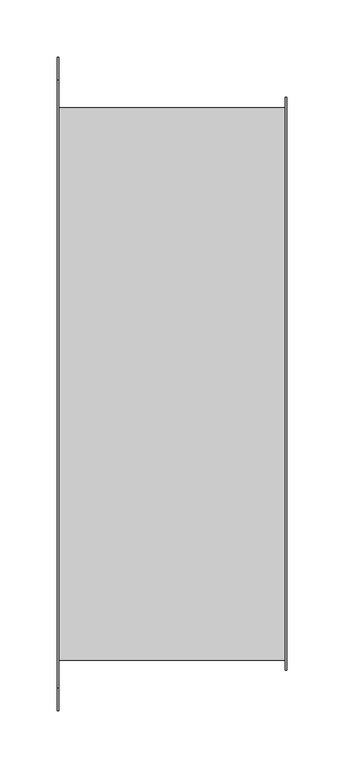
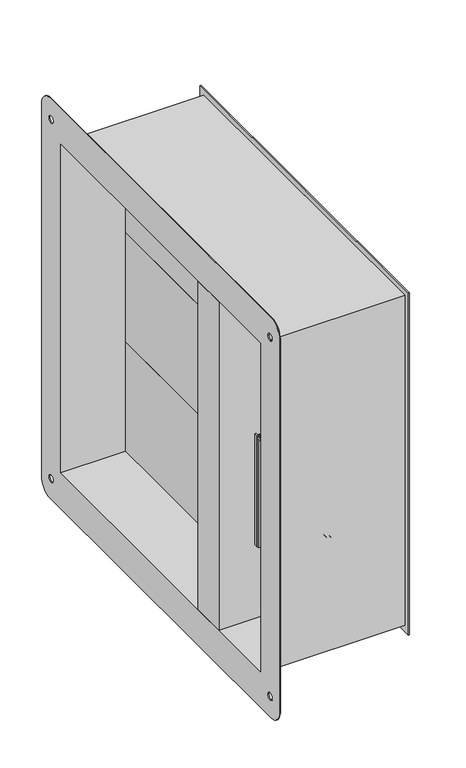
"""IFC4 building model written with IfcOpenShell, lengths in millimetres: damper geometry, СВ_КлапанПротивопожарныйЛифтовой_КДМ-2М-3-ЛС_НЗ_СтеновойПрямоугольный_СВОК : КДМ-3_Привод ЭМ."""

from ifc_helpers import new_model, si_unit, frame, origin, place, context, project, spatial, polyline, circle_curve, outline, extrude, source, transform, mapped, element, save
from ifc_brep_helpers import plane_surface, cylinder_surface, revolved_surface, advanced_brep


def damper_7b435ec8(model_context):
    return source(origin(), model_context, "Body", "SolidModel", [
        extrude(outline(polyline([(10.0, -90.0), (-10.0, -90.0), (-10.0, 240.0), (10.0, 240.0), (10.0, -90.0)])), frame((0.0, 0.0, 80.0), z_axis=(0.0, 0.0, 1.0), x_axis=(1.0, 0.0, 0.0)), (0.0, 0.0, 1.0), 160.0),
        extrude(outline(polyline([(10.0, -90.0), (-10.0, -90.0), (-10.0, 240.0), (10.0, 240.0), (10.0, -90.0)])), frame((0.0, 0.0, -80.0), z_axis=(0.0, 0.0, 1.0), x_axis=(1.0, 0.0, 0.0)), (0.0, 0.0, 1.0), 160.0),
        extrude(outline(polyline([(10.0, -90.0), (-10.0, -90.0), (-10.0, 240.0), (10.0, 240.0), (10.0, -90.0)])), frame((0.0, 0.0, -240.0), z_axis=(0.0, 0.0, 1.0), x_axis=(1.0, 0.0, 0.0)), (0.0, 0.0, 1.0), 160.0),
        extrude(outline(polyline([(48.8298911, -140.0), (50.0298911, -140.0), (50.0298911, -145.0), (-50.0, -145.0), (-50.0, -140.0), (-48.8, -140.0), (-48.8, -143.8), (48.8298911, -143.8), (48.8298911, -140.0)])), frame((0.0, 0.0, -132.5), z_axis=(0.0, 0.0, 1.0), x_axis=(1.0, 0.0, 0.0)), (0.0, 0.0, 1.0), 162.5),
        advanced_brep(
        [(0.0, -219.0, -115.8717586), (0.0, -219.0, -90.1282414), (0.0, -219.0, -103.0), (0.0, -211.122975, -115.8717586), (0.0, -211.122975, -90.1282414), (0.0, -211.122975, -112.0972194), (0.0, -211.122975, -93.9027806), (0.0, -197.0, -112.0972194), (0.0, -197.0, -93.9027806), (0.0, -197.0, -103.0)],
        [
            (0, 1, circle_curve(frame((0.0, -219.0, -103.0), z_axis=(0.0, -1.0, 0.0), x_axis=(0.0, 0.0, 1.0)), 12.8717586)),
            (1, 2),
            (2, 0),
            (1, 0, circle_curve(frame((0.0, -219.0, -103.0), z_axis=(0.0, -1.0, 0.0), x_axis=(0.0, 0.0, 1.0)), 12.8717586)),
            (3, 4, circle_curve(frame((0.0, -211.122975, -103.0), z_axis=(0.0, -1.0, 0.0), x_axis=(0.0, 0.0, 1.0)), 12.8717586)),
            (4, 1),
            (0, 3),
            (4, 3, circle_curve(frame((0.0, -211.122975, -103.0), z_axis=(0.0, -1.0, 0.0), x_axis=(0.0, 0.0, 1.0)), 12.8717586)),
            (5, 6, circle_curve(frame((0.0, -211.122975, -103.0), z_axis=(0.0, -1.0, 0.0), x_axis=(0.0, 0.0, 1.0)), 9.0972194)),
            (6, 4),
            (3, 5),
            (6, 5, circle_curve(frame((0.0, -211.122975, -103.0), z_axis=(0.0, -1.0, 0.0), x_axis=(0.0, 0.0, 1.0)), 9.0972194)),
            (7, 8, circle_curve(frame((0.0, -197.0, -103.0), z_axis=(0.0, -1.0, 0.0), x_axis=(0.0, 0.0, 1.0)), 9.0972194)),
            (8, 6),
            (5, 7),
            (8, 7, circle_curve(frame((0.0, -197.0, -103.0), z_axis=(0.0, -1.0, 0.0), x_axis=(0.0, 0.0, 1.0)), 9.0972194)),
            (9, 8),
            (7, 9),
        ],
        [
            plane_surface(frame((0.0, -219.0, -103.0), z_axis=(0.0, -1.0, 0.0), x_axis=(0.0, 0.0, 1.0))),
            cylinder_surface(frame((0.0, -197.0, -103.0), z_axis=(0.0, 1.0, 0.0), x_axis=(0.0, 0.0, 1.0)), 12.8717586),
            plane_surface(frame((0.0, -211.122975, -103.0), z_axis=(0.0, 1.0, 0.0), x_axis=(0.0, 0.0, 1.0))),
            cylinder_surface(frame((0.0, -197.0, -103.0), z_axis=(0.0, 1.0, 0.0), x_axis=(0.0, 0.0, 1.0)), 9.0972194),
            plane_surface(frame((0.0, -197.0, -103.0), z_axis=(0.0, 1.0, 0.0), x_axis=(0.0, 0.0, 1.0))),
        ],
        [
            (0, [[1, 2, 3]]),
            (0, [[4, -3, -2]]),
            (1, [[5, 6, -1, 7]]),
            (1, [[8, -7, -4, -6]]),
            (2, [[9, 10, -5, 11]]),
            (2, [[12, -11, -8, -10]]),
            (3, [[13, 14, -9, 15]]),
            (3, [[16, -15, -12, -14]]),
            (4, [[17, -13, 18]]),
            (4, [[-18, -16, -17]]),
        ],
    ),
        advanced_brep(
        [(30.37371, -190.4632523, -120.900028), (-29.62629, -190.4632523, -120.900028), (-29.62629, -151.0, -120.900028), (-43.1888336, -151.0, -120.900028), (-43.1888336, -148.0, -120.900028), (-26.62629, -148.0, -120.900028), (-26.62629, -187.4632523, -120.900028), (0.37371, -187.4632523, -120.900028), (27.37371, -187.4632523, -120.900028), (27.37371, -148.0, -120.900028), (43.9362537, -148.0, -120.900028), (43.9362537, -151.0, -120.900028), (30.37371, -151.0, -120.900028), (30.37371, -190.4632523, -85.2906263), (30.37371, -151.0, -85.2906263), (43.9362537, -151.0, -85.2906263), (43.9362537, -148.0, -85.2906263), (27.37371, -148.0, -85.2906263), (27.37371, -187.4632523, -85.2906263), (0.37371, -187.4632523, -85.2906263), (-26.62629, -187.4632523, -85.2906263), (-26.62629, -148.0, -85.2906263), (-43.1888336, -148.0, -85.2906263), (-43.1888336, -151.0, -85.2906263), (-29.62629, -151.0, -85.2906263), (-29.62629, -190.4632523, -85.2906263), (-12.4468236, -190.4632523, -85.2906263), (0.37371, -190.4632523, -85.2906263), (12.4468236, -190.4632523, -85.2906263), (0.37371, -187.4632523, -87.0153496), (0.0, -187.4632523, -87.0109817), (0.0, -187.4632523, -118.9890183), (0.37371, -187.4632523, -118.9846504), (12.4468236, -197.0, -103.0), (12.4468236, -197.0, -15.654922), (-8.3218794, -197.0, 18.1864324), (-46.7904973, -197.0, 0.5836838), (-46.7904973, -197.0, -7.3717785), (-30.2857987, -197.0, -7.3717785), (-7.6533426, -197.0, -30.2158745), (-7.6533426, -197.0, -53.0), (-12.4468236, -197.0, -53.0), (-12.4468236, -197.0, -103.0), (8.4852814, -197.0, 0.0), (5.9954463, -197.0, -2.4898351), (5.9954463, -197.0, -5.9954463), (2.4898351, -197.0, -5.9954463), (0.0, -197.0, -8.4852814), (-2.4898351, -197.0, -5.9954463), (-5.9954463, -197.0, -5.9954463), (-5.9954463, -197.0, -2.4898351), (-8.4852814, -197.0, 0.0), (-5.9954463, -197.0, 2.4898351), (-5.9954463, -197.0, 5.9954463), (-2.4898351, -197.0, 5.9954463), (0.0, -197.0, 8.4852814), (2.4898351, -197.0, 5.9954463), (5.9954463, -197.0, 5.9954463), (5.9954463, -197.0, 2.4898351), (-12.4468236, -190.4632523, -53.0), (-7.6533426, -190.4632523, -53.0), (-7.6533426, -190.4632523, -30.2158745), (-23.3544986, -190.4632523, -20.6431616), (12.4468236, -190.4632523, -20.6431616), (-12.4468236, -190.4632523, -103.0), (12.4468236, -190.4632523, -103.0), (12.4468236, -190.4632523, -15.654922), (-8.3218794, -190.4632523, 18.1864324), (-46.7904973, -190.4632523, 0.5836838), (-46.7904973, -190.4632523, -7.3717785), (-30.2857987, -190.4632523, -7.3717785), (0.0, -185.0, 15.9890183), (0.0, -185.0, -15.9890183), (5.9954463, -185.0, -2.4898351), (8.4852814, -185.0, 0.0), (5.9954463, -185.0, 2.4898351), (5.9954463, -185.0, 5.9954463), (2.4898351, -185.0, 5.9954463), (0.0, -185.0, 8.4852814), (-2.4898351, -185.0, 5.9954463), (-5.9954463, -185.0, 5.9954463), (-5.9954463, -185.0, 2.4898351), (-8.4852814, -185.0, 0.0), (-5.9954463, -185.0, -2.4898351), (-5.9954463, -185.0, -5.9954463), (-2.4898351, -185.0, -5.9954463), (0.0, -185.0, -8.4852814), (2.4898351, -185.0, -5.9954463), (5.9954463, -185.0, -5.9954463), (0.0, -185.0, -87.0109817), (0.0, -185.0, -118.9890183), (0.0, -187.4632523, -15.9890183), (0.0, -187.4632523, 15.9890183), (-50.0, -145.0, 25.5), (-50.0, -145.0, -132.5), (-50.0, -148.0, -132.5), (-50.0, -148.0, 25.5), (-50.0, -149.5, 27.0), (-50.0, -185.9337407, 27.0), (-50.0, -187.4632523, 25.4704884), (-50.0, -187.4632523, -20.6431616), (-50.0, -190.4632523, -20.6431616), (-50.0, -190.4632523, 25.4704884), (-50.0, -185.9337407, 30.0), (-50.0, -149.5, 30.0), (50.0, -145.0, 25.5), (50.0, -149.5, 30.0), (50.0, -185.9337407, 30.0), (50.0, -190.4632523, 25.4704884), (50.0, -190.4632523, -20.6431616), (50.0, -187.4632523, -20.6431616), (50.0, -187.4632523, 25.4704884), (50.0, -185.9337407, 27.0), (50.0, -149.5, 27.0), (50.0, -148.0, 25.5), (50.0, -148.0, -132.5), (50.0, -145.0, -132.5), (5.9954463, -145.0, -2.4898351), (8.4852814, -145.0, 0.0), (5.9954463, -145.0, 2.4898351), (5.9954463, -145.0, 5.9954463), (2.4898351, -145.0, 5.9954463), (0.0, -145.0, 8.4852814), (-2.4898351, -145.0, 5.9954463), (-5.9954463, -145.0, 5.9954463), (-5.9954463, -145.0, 2.4898351), (-8.4852814, -145.0, 0.0), (-5.9954463, -145.0, -2.4898351), (-5.9954463, -145.0, -5.9954463), (-2.4898351, -145.0, -5.9954463), (0.0, -145.0, -8.4852814), (2.4898351, -145.0, -5.9954463), (5.9954463, -145.0, -5.9954463), (8.4852814, -148.0, 0.0), (5.9954463, -148.0, -2.4898351), (5.9954463, -148.0, -5.9954463), (2.4898351, -148.0, -5.9954463), (0.0, -148.0, -8.4852814), (-2.4898351, -148.0, -5.9954463), (-5.9954463, -148.0, -5.9954463), (-5.9954463, -148.0, -2.4898351), (-8.4852814, -148.0, 0.0), (-5.9954463, -148.0, 2.4898351), (-5.9954463, -148.0, 5.9954463), (-2.4898351, -148.0, 5.9954463), (0.0, -148.0, 8.4852814), (2.4898351, -148.0, 5.9954463), (5.9954463, -148.0, 5.9954463), (5.9954463, -148.0, 2.4898351)],
        [
            (0, 1),
            (1, 2),
            (2, 3),
            (3, 4),
            (4, 5),
            (5, 6),
            (6, 7),
            (7, 8),
            (8, 9),
            (9, 10),
            (10, 11),
            (11, 12),
            (12, 0),
            (13, 14),
            (14, 15),
            (15, 16),
            (16, 17),
            (17, 18),
            (18, 19),
            (19, 20),
            (20, 21),
            (21, 22),
            (22, 23),
            (23, 24),
            (24, 25),
            (25, 26),
            (26, 27),
            (27, 28),
            (28, 13),
            (1, 25),
            (24, 2),
            (23, 3),
            (22, 4),
            (5, 21),
            (20, 6),
            (19, 29),
            (29, 30, circle_curve(frame((0.0, -187.4632523, -103.0), z_axis=(0.0, -1.0, 0.0), x_axis=(0.0, 0.0, -1.0)), 15.9890183)),
            (30, 31, circle_curve(frame((0.0, -187.4632523, -103.0), z_axis=(0.0, -1.0, 0.0), x_axis=(0.0, 0.0, -1.0)), 15.9890183)),
            (31, 32, circle_curve(frame((0.0, -187.4632523, -103.0), z_axis=(0.0, -1.0, 0.0), x_axis=(0.0, 0.0, -1.0)), 15.9890183)),
            (32, 7),
            (32, 29, circle_curve(frame((0.0, -187.4632523, -103.0), z_axis=(0.0, -1.0, 0.0), x_axis=(0.0, 0.0, -1.0)), 15.9890183)),
            (18, 8),
            (17, 9),
            (10, 16),
            (15, 11),
            (14, 12),
            (13, 0),
            (33, 34),
            (34, 35, circle_curve(frame((0.0, -197.0, 0.0), z_axis=(0.0, -1.0, 0.0), x_axis=(0.0, 0.0, -1.0)), 20.0)),
            (35, 36),
            (36, 37),
            (37, 38),
            (38, 39, circle_curve(frame((0.0, -197.0, 0.0), z_axis=(0.0, -1.0, 0.0), x_axis=(0.0, 0.0, -1.0)), 31.1700613)),
            (39, 40),
            (40, 41),
            (41, 42),
            (42, 33, circle_curve(frame((0.0, -197.0, -103.0), z_axis=(0.0, -1.0, 0.0), x_axis=(0.0, 0.0, -1.0)), 12.4468236)),
            (43, 44),
            (44, 45),
            (45, 46),
            (46, 47),
            (47, 48),
            (48, 49),
            (49, 50),
            (50, 51),
            (51, 52),
            (52, 53),
            (53, 54),
            (54, 55),
            (55, 56),
            (56, 57),
            (57, 58),
            (58, 43),
            (59, 60),
            (60, 61),
            (61, 62, circle_curve(frame((0.0, -190.4632523, 0.0), z_axis=(0.0, 1.0, 0.0), x_axis=(0.0, 0.0, -1.0)), 31.1700613)),
            (62, 63),
            (63, 28),
            (26, 59),
            (42, 64),
            (64, 65, circle_curve(frame((0.0, -190.4632523, -103.0), z_axis=(0.0, -1.0, 0.0), x_axis=(0.0, 0.0, -1.0)), 12.4468236)),
            (65, 33),
            (34, 66),
            (66, 67, circle_curve(frame((0.0, -190.4632523, 0.0), z_axis=(0.0, -1.0, 0.0), x_axis=(0.0, 0.0, -1.0)), 20.0)),
            (67, 35),
            (65, 28),
            (63, 66),
            (36, 68),
            (68, 69),
            (69, 37),
            (69, 70),
            (70, 38),
            (70, 62, circle_curve(frame((0.0, -190.4632523, 0.0), z_axis=(0.0, -1.0, 0.0), x_axis=(0.0, 0.0, -1.0)), 31.1700613)),
            (61, 39),
            (60, 40),
            (59, 41),
            (26, 64),
            (71, 72, circle_curve(frame((0.0, -185.0, 0.0), z_axis=(0.0, 1.0, 0.0), x_axis=(0.0, 0.0, -1.0)), 15.9890183)),
            (72, 71, circle_curve(frame((0.0, -185.0, 0.0), z_axis=(0.0, 1.0, 0.0), x_axis=(0.0, 0.0, -1.0)), 15.9890183)),
            (73, 74),
            (74, 75),
            (75, 76),
            (76, 77),
            (77, 78),
            (78, 79),
            (79, 80),
            (80, 81),
            (81, 82),
            (82, 83),
            (83, 84),
            (84, 85),
            (85, 86),
            (86, 87),
            (87, 88),
            (88, 73),
            (89, 90, circle_curve(frame((0.0, -185.0, -103.0), z_axis=(0.0, 1.0, 0.0), x_axis=(0.0, 0.0, -1.0)), 15.9890183)),
            (90, 89, circle_curve(frame((0.0, -185.0, -103.0), z_axis=(0.0, 1.0, 0.0), x_axis=(0.0, 0.0, -1.0)), 15.9890183)),
            (72, 91),
            (91, 92, circle_curve(frame((0.0, -187.4632523, 0.0), z_axis=(0.0, 1.0, 0.0), x_axis=(0.0, 0.0, -1.0)), 15.9890183)),
            (92, 71),
            (92, 91, circle_curve(frame((0.0, -187.4632523, 0.0), z_axis=(0.0, 1.0, 0.0), x_axis=(0.0, 0.0, -1.0)), 15.9890183)),
            (90, 31),
            (30, 89),
            (93, 94),
            (94, 95),
            (95, 96),
            (96, 97, circle_curve(frame((-50.0, -149.5, 25.5), z_axis=(1.0, 0.0, 0.0), x_axis=(0.0, 0.0, -1.0)), 1.5)),
            (97, 98),
            (98, 99, circle_curve(frame((-50.0, -185.9337407, 25.4704884), z_axis=(1.0, 0.0, 0.0), x_axis=(0.0, 0.0, -1.0)), 1.5295116)),
            (99, 100),
            (100, 101),
            (101, 102),
            (102, 103, circle_curve(frame((-50.0, -185.9337407, 25.4704884), z_axis=(-1.0, 0.0, 0.0), x_axis=(0.0, 0.0, -1.0)), 4.5295116)),
            (103, 104),
            (104, 93, circle_curve(frame((-50.0, -149.5, 25.5), z_axis=(-1.0, 0.0, 0.0), x_axis=(0.0, 0.0, -1.0)), 4.5)),
            (105, 106, circle_curve(frame((50.0, -149.5, 25.5), z_axis=(1.0, 0.0, 0.0), x_axis=(0.0, 0.0, -1.0)), 4.5)),
            (106, 107),
            (107, 108, circle_curve(frame((50.0, -185.9337407, 25.4704884), z_axis=(1.0, 0.0, 0.0), x_axis=(0.0, 0.0, -1.0)), 4.5295116)),
            (108, 109),
            (109, 110),
            (110, 111),
            (111, 112, circle_curve(frame((50.0, -185.9337407, 25.4704884), z_axis=(-1.0, 0.0, 0.0), x_axis=(0.0, 0.0, -1.0)), 1.5295116)),
            (112, 113),
            (113, 114, circle_curve(frame((50.0, -149.5, 25.5), z_axis=(-1.0, 0.0, 0.0), x_axis=(0.0, 0.0, -1.0)), 1.5)),
            (114, 115),
            (115, 116),
            (116, 105),
            (93, 105),
            (116, 94),
            (117, 118),
            (118, 119),
            (119, 120),
            (120, 121),
            (121, 122),
            (122, 123),
            (123, 124),
            (124, 125),
            (125, 126),
            (126, 127),
            (127, 128),
            (128, 129),
            (129, 130),
            (130, 131),
            (131, 132),
            (132, 117),
            (115, 95),
            (114, 96),
            (133, 134),
            (134, 135),
            (135, 136),
            (136, 137),
            (137, 138),
            (138, 139),
            (139, 140),
            (140, 141),
            (141, 142),
            (142, 143),
            (143, 144),
            (144, 145),
            (145, 146),
            (146, 147),
            (147, 148),
            (148, 133),
            (113, 97),
            (112, 98),
            (111, 99),
            (110, 100),
            (109, 63),
            (62, 101),
            (68, 67),
            (108, 102),
            (107, 103),
            (106, 104),
            (73, 44),
            (43, 74),
            (117, 134),
            (133, 118),
            (58, 75),
            (148, 119),
            (57, 76),
            (147, 120),
            (56, 77),
            (146, 121),
            (55, 78),
            (145, 122),
            (54, 79),
            (144, 123),
            (53, 80),
            (143, 124),
            (52, 81),
            (142, 125),
            (51, 82),
            (141, 126),
            (50, 83),
            (140, 127),
            (49, 84),
            (139, 128),
            (48, 85),
            (138, 129),
            (47, 86),
            (137, 130),
            (46, 87),
            (136, 131),
            (45, 88),
            (135, 132),
        ],
        [
            plane_surface(frame((30.37371, -190.4632523, -120.900028), z_axis=(0.0, 0.0, -1.0), x_axis=(-1.0, 0.0, 0.0))),
            plane_surface(frame((30.37371, -190.4632523, -85.2906263), z_axis=(0.0, 0.0, 1.0), x_axis=(1.0, 0.0, 0.0))),
            plane_surface(frame((-29.62629, -190.4632523, -120.900028), z_axis=(-1.0, 0.0, 0.0), x_axis=(0.0, 0.0, 1.0))),
            plane_surface(frame((-29.62629, -151.0, -120.900028), z_axis=(0.0, -1.0, 0.0), x_axis=(0.0, 0.0, 1.0))),
            plane_surface(frame((-43.1888336, -151.0, -120.900028), z_axis=(-1.0, 0.0, 0.0), x_axis=(0.0, 0.0, 1.0))),
            plane_surface(frame((-26.62629, -148.0, -120.900028), z_axis=(1.0, 0.0, 0.0), x_axis=(0.0, 0.0, 1.0))),
            plane_surface(frame((-26.62629, -187.4632523, -120.900028), z_axis=(0.0, 1.0, 0.0), x_axis=(0.0, 0.0, 1.0))),
            plane_surface(frame((0.37371, -187.4632523, -120.900028), z_axis=(0.0, 1.0, 0.0), x_axis=(0.0, 0.0, 1.0))),
            plane_surface(frame((27.37371, -187.4632523, -120.900028), z_axis=(-1.0, 0.0, 0.0), x_axis=(0.0, 0.0, 1.0))),
            plane_surface(frame((43.9362537, -148.0, -120.900028), z_axis=(1.0, 0.0, 0.0), x_axis=(0.0, 0.0, 1.0))),
            plane_surface(frame((43.9362537, -151.0, -120.900028), z_axis=(0.0, -1.0, 0.0), x_axis=(0.0, 0.0, 1.0))),
            plane_surface(frame((30.37371, -151.0, -120.900028), z_axis=(1.0, 0.0, 0.0), x_axis=(0.0, 0.0, 1.0))),
            plane_surface(frame((12.4468236, -197.0, -103.0), z_axis=(0.0, -1.0, 0.0), x_axis=(0.0, 0.0, 1.0))),
            plane_surface(frame((12.4468236, -190.4632523, -103.0), z_axis=(0.0, 1.0, 0.0), x_axis=(0.0, 0.0, -1.0))),
            cylinder_surface(frame((0.0, -190.4632523, -103.0), z_axis=(0.0, -1.0, 0.0), x_axis=(0.0, 0.0, -1.0)), 12.4468236),
            cylinder_surface(frame((0.0, -190.4632523, 0.0), z_axis=(0.0, -1.0, 0.0), x_axis=(0.0, 0.0, -1.0)), 20.0),
            plane_surface(frame((12.4468236, -197.0, -103.0), z_axis=(1.0, 0.0, 0.0), x_axis=(0.0, 1.0, 0.0))),
            plane_surface(frame((-46.7904973, -197.0, 0.5836838), z_axis=(-1.0, 0.0, 0.0), x_axis=(0.0, 1.0, 0.0))),
            plane_surface(frame((-46.7904973, -197.0, -7.3717785), z_axis=(0.0, 0.0, -1.0), x_axis=(0.0, 1.0, 0.0))),
            cylinder_surface(frame((0.0, -190.4632523, 0.0), z_axis=(0.0, -1.0, 0.0), x_axis=(0.0, 0.0, -1.0)), 31.1700613),
            plane_surface(frame((-7.6533426, -197.0, -30.2158745), z_axis=(-1.0, 0.0, 0.0), x_axis=(0.0, 1.0, 0.0))),
            plane_surface(frame((-7.6533426, -197.0, -53.0), z_axis=(0.0, 0.0, 1.0), x_axis=(0.0, 1.0, 0.0))),
            plane_surface(frame((-12.4468236, -197.0, -53.0), z_axis=(-1.0, 0.0, 0.0), x_axis=(0.0, 1.0, 0.0))),
            plane_surface(frame((0.0, -190.4632523, -15.9890183), z_axis=(0.0, -1.0, 0.0), x_axis=(1.0, 0.0, 0.0))),
            plane_surface(frame((0.0, -185.0, -15.9890183), z_axis=(0.0, 1.0, 0.0), x_axis=(-1.0, 0.0, 0.0))),
            cylinder_surface(frame((0.0, -185.0, 0.0), z_axis=(0.0, -1.0, 0.0), x_axis=(0.0, 0.0, -1.0)), 15.9890183),
            cylinder_surface(frame((0.0, -140.0, -103.0), z_axis=(0.0, -1.0, 0.0), x_axis=(0.0, 0.0, -1.0)), 15.9890183),
            plane_surface(frame((-50.0, -145.0, -132.5), z_axis=(-1.0, 0.0, 0.0), x_axis=(0.0, 0.0, -1.0))),
            plane_surface(frame((50.0, -145.0, -132.5), z_axis=(1.0, 0.0, 0.0), x_axis=(0.0, 0.0, 1.0))),
            plane_surface(frame((-50.0, -145.0, 25.5), z_axis=(0.0, 1.0, 0.0), x_axis=(1.0, 0.0, 0.0))),
            plane_surface(frame((-50.0, -145.0, -132.5), z_axis=(0.0, 0.0, -1.0), x_axis=(1.0, 0.0, 0.0))),
            plane_surface(frame((-50.0, -148.0, -132.5), z_axis=(0.0, -1.0, 0.0), x_axis=(1.0, 0.0, 0.0))),
            revolved_surface(polyline([(50.0, -149.5, 24.0), (-50.0, -149.5, 24.0)]), (50.0, -149.5, 25.5), (1.0, 0.0, 0.0)),
            plane_surface(frame((-50.0, -149.5, 27.0), z_axis=(0.0, 0.0, -1.0), x_axis=(1.0, 0.0, 0.0))),
            revolved_surface(polyline([(50.0, -185.9337407, 23.9409768), (-50.0, -185.9337407, 23.9409768)]), (50.0, -185.9337407, 25.4704884), (1.0, 0.0, 0.0)),
            plane_surface(frame((-50.0, -187.4632523, 25.4704884), z_axis=(0.0, 1.0, 0.0), x_axis=(1.0, 0.0, 0.0))),
            plane_surface(frame((-50.0, -187.4632523, -20.6431616), z_axis=(0.0, 0.0, -1.0), x_axis=(1.0, 0.0, 0.0))),
            plane_surface(frame((-50.0, -190.4632523, -20.6431616), z_axis=(0.0, -1.0, 0.0), x_axis=(1.0, 0.0, 0.0))),
            cylinder_surface(frame((50.0, -185.9337407, 25.4704884), z_axis=(-1.0, 0.0, 0.0), x_axis=(0.0, 0.0, -1.0)), 4.5295116),
            plane_surface(frame((-50.0, -185.9337407, 30.0), z_axis=(0.0, 0.0, 1.0), x_axis=(1.0, 0.0, 0.0))),
            cylinder_surface(frame((50.0, -149.5, 25.5), z_axis=(-1.0, 0.0, 0.0), x_axis=(0.0, 0.0, -1.0)), 4.5),
            plane_surface(frame((-8.3218794, -197.0, 18.1864324), z_axis=(-0.4160939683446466, 0.0, 0.9093216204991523), x_axis=(0.0, 1.0, 0.0))),
            plane_surface(frame((5.9954463, -203.0, -2.4898351), z_axis=(-0.7071067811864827, 0.0, 0.7071067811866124), x_axis=(0.0, 1.0, 0.0))),
            plane_surface(frame((8.4852814, -203.0, 0.0), z_axis=(-0.7071067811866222, 0.0, -0.7071067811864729), x_axis=(0.0, 1.0, 0.0))),
            plane_surface(frame((5.9954463, -203.0, 2.4898351), z_axis=(-1.0, 0.0, 0.0), x_axis=(0.0, 1.0, 0.0))),
            plane_surface(frame((5.9954463, -203.0, 5.9954463), z_axis=(0.0, 0.0, -1.0), x_axis=(0.0, 1.0, 0.0))),
            plane_surface(frame((2.4898351, -203.0, 5.9954463), z_axis=(-0.7071067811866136, 0.0, -0.7071067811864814), x_axis=(0.0, 1.0, 0.0))),
            plane_surface(frame((0.0, -203.0, 8.4852814), z_axis=(0.7071067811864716, 0.0, -0.7071067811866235), x_axis=(0.0, 1.0, 0.0))),
            plane_surface(frame((-2.4898351, -203.0, 5.9954463), z_axis=(0.0, 0.0, -1.0), x_axis=(0.0, 1.0, 0.0))),
            plane_surface(frame((-5.9954463, -203.0, 5.9954463), z_axis=(1.0, 0.0, 0.0), x_axis=(0.0, 1.0, 0.0))),
            plane_surface(frame((-5.9954463, -203.0, 2.4898351), z_axis=(0.7071067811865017, 0.0, -0.7071067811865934), x_axis=(0.0, 1.0, 0.0))),
            plane_surface(frame((-8.4852814, -203.0, 0.0), z_axis=(0.7071067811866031, 0.0, 0.7071067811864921), x_axis=(0.0, 1.0, 0.0))),
            plane_surface(frame((-5.9954463, -203.0, -2.4898351), z_axis=(1.0, 0.0, 0.0), x_axis=(0.0, 1.0, 0.0))),
            plane_surface(frame((-5.9954463, -203.0, -5.9954463), z_axis=(0.0, 0.0, 1.0), x_axis=(0.0, 1.0, 0.0))),
            plane_surface(frame((-2.4898351, -203.0, -5.9954463), z_axis=(0.7071067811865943, 0.0, 0.7071067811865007), x_axis=(0.0, 1.0, 0.0))),
            plane_surface(frame((0.0, -203.0, -8.4852814), z_axis=(-0.707106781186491, 0.0, 0.7071067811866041), x_axis=(0.0, 1.0, 0.0))),
            plane_surface(frame((2.4898351, -203.0, -5.9954463), z_axis=(0.0, 0.0, 1.0), x_axis=(0.0, 1.0, 0.0))),
            plane_surface(frame((5.9954463, -203.0, -5.9954463), z_axis=(-1.0, 0.0, 0.0), x_axis=(0.0, 1.0, 0.0))),
        ],
        [
            (0, [[1, 2, 3, 4, 5, 6, 7, 8, 9, 10, 11, 12, 13]]),
            (1, [[14, 15, 16, 17, 18, 19, 20, 21, 22, 23, 24, 25, 26, 27, 28, 29]]),
            (2, [[-2, 30, -25, 31]]),
            (3, [[-3, -31, -24, 32]]),
            (4, [[-4, -32, -23, 33]]),
            (5, [[-6, 34, -21, 35]]),
            (6, [[-7, -35, -20, 36, 37, 38, 39, 40]]),
            (7, [[-8, -40, 41, -36, -19, 42]]),
            (8, [[-9, -42, -18, 43]]),
            (9, [[-11, 44, -16, 45]]),
            (10, [[-12, -45, -15, 46]]),
            (11, [[-13, -46, -14, 47]]),
            (12, [[48, 49, 50, 51, 52, 53, 54, 55, 56, 57], [58, 59, 60, 61, 62, 63, 64, 65, 66, 67, 68, 69, 70, 71, 72, 73]]),
            (13, [[74, 75, 76, 77, 78, -28, -27, 79]]),
            (14, [[-57, 80, 81, 82]]),
            (15, [[-49, 83, 84, 85]]),
            (16, [[-48, -82, 86, -78, 87, -83]]),
            (17, [[-51, 88, 89, 90]]),
            (18, [[-52, -90, 91, 92]]),
            (19, [[-53, -92, 93, -76, 94]]),
            (20, [[-54, -94, -75, 95]]),
            (21, [[-55, -95, -74, 96]]),
            (22, [[-56, -96, -79, 97, -80]]),
            (23, [[-26, -30, -1, -47, -29, -86, -81, -97]]),
            (24, [[98, 99], [100, 101, 102, 103, 104, 105, 106, 107, 108, 109, 110, 111, 112, 113, 114, 115]]),
            (24, [[116, 117]]),
            (25, [[-99, 118, 119, 120]]),
            (25, [[-98, -120, 121, -118]]),
            (26, [[-117, 122, -38, 123]]),
            (26, [[-116, -123, -37, -41, -39, -122]]),
            (27, [[124, 125, 126, 127, 128, 129, 130, 131, 132, 133, 134, 135]]),
            (28, [[136, 137, 138, 139, 140, 141, 142, 143, 144, 145, 146, 147]]),
            (29, [[-124, 148, -147, 149], [150, 151, 152, 153, 154, 155, 156, 157, 158, 159, 160, 161, 162, 163, 164, 165]]),
            (30, [[-125, -149, -146, 166]]),
            (31, [[-126, -166, -145, 167], [-5, -33, -22, -34], [-10, -43, -17, -44], [168, 169, 170, 171, 172, 173, 174, 175, 176, 177, 178, 179, 180, 181, 182, 183]]),
            (32, [[-127, -167, -144, 184]]),
            (33, [[-128, -184, -143, 185]]),
            (34, [[-129, -185, -142, 186]]),
            (35, [[-130, -186, -141, 187], [-119, -121]]),
            (36, [[-131, -187, -140, 188, -77, 189]]),
            (37, [[-132, -189, -93, -91, -89, 190, -84, -87, -188, -139, 191]]),
            (38, [[-133, -191, -138, 192]]),
            (39, [[-134, -192, -137, 193]]),
            (40, [[-135, -193, -136, -148]]),
            (41, [[-50, -85, -190, -88]]),
            (42, [[194, -58, 195, -100]]),
            (42, [[196, -168, 197, -150]]),
            (43, [[-195, -73, 198, -101]]),
            (43, [[-197, -183, 199, -151]]),
            (44, [[-198, -72, 200, -102]]),
            (44, [[-199, -182, 201, -152]]),
            (45, [[-200, -71, 202, -103]]),
            (45, [[-201, -181, 203, -153]]),
            (46, [[-202, -70, 204, -104]]),
            (46, [[-203, -180, 205, -154]]),
            (47, [[-204, -69, 206, -105]]),
            (47, [[-205, -179, 207, -155]]),
            (48, [[-206, -68, 208, -106]]),
            (48, [[-207, -178, 209, -156]]),
            (49, [[-208, -67, 210, -107]]),
            (49, [[-209, -177, 211, -157]]),
            (50, [[-210, -66, 212, -108]]),
            (50, [[-211, -176, 213, -158]]),
            (51, [[-212, -65, 214, -109]]),
            (51, [[-213, -175, 215, -159]]),
            (52, [[-214, -64, 216, -110]]),
            (52, [[-215, -174, 217, -160]]),
            (53, [[-216, -63, 218, -111]]),
            (53, [[-217, -173, 219, -161]]),
            (54, [[-218, -62, 220, -112]]),
            (54, [[-219, -172, 221, -162]]),
            (55, [[-220, -61, 222, -113]]),
            (55, [[-221, -171, 223, -163]]),
            (56, [[-222, -60, 224, -114]]),
            (56, [[-223, -170, 225, -164]]),
            (57, [[-194, -115, -224, -59]]),
            (57, [[-196, -165, -225, -169]]),
        ],
    ),
        extrude(outline(polyline([(-5.1832695, -2.9925621), (-5.1832695, 2.9925621), (0.0, 5.9851241), (5.1832695, 2.9925621), (5.1832695, -2.9925621), (0.0, -5.9851241), (-5.1832695, -2.9925621)])), frame((0.0, -203.0, 0.0), z_axis=(0.0, 1.0, 0.0), x_axis=(0.0, 0.0, 1.0)), (0.0, 0.0, 1.0), 63.0),
        extrude(outline(polyline([(100.0, -90.0), (100.0, -140.0), (-100.0, -140.0), (-100.0, -90.0), (100.0, -90.0)])), frame((0.0, 0.0, -240.0), z_axis=(0.0, 0.0, 1.0), x_axis=(1.0, 0.0, 0.0)), (0.0, 0.0, 1.0), 480.0),
        advanced_brep(
        [(-100.0, -265.0, 292.5), (-100.0, 265.0, 292.5), (-100.0, 285.0, 272.5), (-100.0, 285.0, -272.5), (-100.0, 265.0, -292.5), (-100.0, -265.0, -292.5), (-100.0, -285.0, -272.5), (-100.0, -285.0, 272.5), (-100.0, -240.0, 240.0), (-100.0, -240.0, -240.0), (-100.0, 240.0, -240.0), (-100.0, 240.0, 240.0), (-100.0, 257.5, 262.5), (-100.0, 267.5, 262.5), (-100.0, -267.5, 262.5), (-100.0, -257.5, 262.5), (-100.0, -267.5, -262.5), (-100.0, -257.5, -262.5), (-100.0, 257.5, -262.5), (-100.0, 267.5, -262.5), (-98.8, -265.0, 292.5), (-98.8, -285.0, 272.5), (-98.8, -285.0, -272.5), (-98.8, -265.0, -292.5), (-98.8, 265.0, -292.5), (-98.8, 285.0, -272.5), (-98.8, 285.0, 272.5), (-98.8, 265.0, 292.5), (-98.8, -241.2, 241.2), (-98.8, 241.2, 241.2), (-98.8, 241.2, -241.2), (-98.8, -241.2, -241.2), (-98.8, 267.5, 262.5), (-98.8, 257.5, 262.5), (-98.8, -257.5, 262.5), (-98.8, -267.5, 262.5), (-98.8, -257.5, -262.5), (-98.8, -267.5, -262.5), (-98.8, 267.5, -262.5), (-98.8, 257.5, -262.5), (100.0, -250.0, 250.0), (100.0, -250.0, -250.0), (100.0, 250.0, -250.0), (100.0, 250.0, 250.0), (100.0, -240.0, 240.0), (100.0, 240.0, 240.0), (100.0, 240.0, -240.0), (100.0, -240.0, -240.0), (98.8, -241.2, 241.2), (98.8, 241.2, 241.2), (98.8, -241.2, -241.2), (98.8, 241.2, -241.2), (98.8, 240.0, 240.0), (98.8, -240.0, 240.0), (98.8, -140.0, 240.0), (97.6, -140.0, 240.0), (97.6, -240.0, 240.0), (98.8, 240.0, -240.0), (97.6, -240.0, -240.0), (97.6, -140.0, -240.0), (98.8, -140.0, -240.0), (98.8, -240.0, -240.0), (98.8, -250.0, 250.0), (98.8, 250.0, 250.0), (98.8, 250.0, -250.0), (98.8, -250.0, -250.0)],
        [
            (0, 1),
            (1, 2, circle_curve(frame((-100.0, 265.0, 272.5), z_axis=(-1.0, 0.0, 0.0), x_axis=(0.0, 1.0, 0.0)), 20.0)),
            (2, 3),
            (3, 4, circle_curve(frame((-100.0, 265.0, -272.5), z_axis=(-1.0, 0.0, 0.0), x_axis=(0.0, 1.0, 0.0)), 20.0)),
            (4, 5),
            (5, 6, circle_curve(frame((-100.0, -265.0, -272.5), z_axis=(-1.0, 0.0, 0.0), x_axis=(0.0, 1.0, 0.0)), 20.0)),
            (6, 7),
            (7, 0, circle_curve(frame((-100.0, -265.0, 272.5), z_axis=(-1.0, 0.0, 0.0), x_axis=(0.0, 1.0, 0.0)), 20.0)),
            (8, 9),
            (9, 10),
            (10, 11),
            (11, 8),
            (12, 13, circle_curve(frame((-100.0, 262.5, 262.5), z_axis=(1.0, 0.0, 0.0), x_axis=(0.0, 1.0, 0.0)), 5.0)),
            (13, 12, circle_curve(frame((-100.0, 262.5, 262.5), z_axis=(1.0, 0.0, 0.0), x_axis=(0.0, 1.0, 0.0)), 5.0)),
            (14, 15, circle_curve(frame((-100.0, -262.5, 262.5), z_axis=(1.0, 0.0, 0.0), x_axis=(0.0, 1.0, 0.0)), 5.0)),
            (15, 14, circle_curve(frame((-100.0, -262.5, 262.5), z_axis=(1.0, 0.0, 0.0), x_axis=(0.0, 1.0, 0.0)), 5.0)),
            (16, 17, circle_curve(frame((-100.0, -262.5, -262.5), z_axis=(1.0, 0.0, 0.0), x_axis=(0.0, 1.0, 0.0)), 5.0)),
            (17, 16, circle_curve(frame((-100.0, -262.5, -262.5), z_axis=(1.0, 0.0, 0.0), x_axis=(0.0, 1.0, 0.0)), 5.0)),
            (18, 19, circle_curve(frame((-100.0, 262.5, -262.5), z_axis=(1.0, 0.0, 0.0), x_axis=(0.0, 1.0, 0.0)), 5.0)),
            (19, 18, circle_curve(frame((-100.0, 262.5, -262.5), z_axis=(1.0, 0.0, 0.0), x_axis=(0.0, 1.0, 0.0)), 5.0)),
            (20, 21, circle_curve(frame((-98.8, -265.0, 272.5), z_axis=(1.0, 0.0, 0.0), x_axis=(0.0, 1.0, 0.0)), 20.0)),
            (21, 22),
            (22, 23, circle_curve(frame((-98.8, -265.0, -272.5), z_axis=(1.0, 0.0, 0.0), x_axis=(0.0, 1.0, 0.0)), 20.0)),
            (23, 24),
            (24, 25, circle_curve(frame((-98.8, 265.0, -272.5), z_axis=(1.0, 0.0, 0.0), x_axis=(0.0, 1.0, 0.0)), 20.0)),
            (25, 26),
            (26, 27, circle_curve(frame((-98.8, 265.0, 272.5), z_axis=(1.0, 0.0, 0.0), x_axis=(0.0, 1.0, 0.0)), 20.0)),
            (27, 20),
            (28, 29),
            (29, 30),
            (30, 31),
            (31, 28),
            (32, 33, circle_curve(frame((-98.8, 262.5, 262.5), z_axis=(-1.0, 0.0, 0.0), x_axis=(0.0, 1.0, 0.0)), 5.0)),
            (33, 32, circle_curve(frame((-98.8, 262.5, 262.5), z_axis=(-1.0, 0.0, 0.0), x_axis=(0.0, 1.0, 0.0)), 5.0)),
            (34, 35, circle_curve(frame((-98.8, -262.5, 262.5), z_axis=(-1.0, 0.0, 0.0), x_axis=(0.0, 1.0, 0.0)), 5.0)),
            (35, 34, circle_curve(frame((-98.8, -262.5, 262.5), z_axis=(-1.0, 0.0, 0.0), x_axis=(0.0, 1.0, 0.0)), 5.0)),
            (36, 37, circle_curve(frame((-98.8, -262.5, -262.5), z_axis=(-1.0, 0.0, 0.0), x_axis=(0.0, 1.0, 0.0)), 5.0)),
            (37, 36, circle_curve(frame((-98.8, -262.5, -262.5), z_axis=(-1.0, 0.0, 0.0), x_axis=(0.0, 1.0, 0.0)), 5.0)),
            (38, 39, circle_curve(frame((-98.8, 262.5, -262.5), z_axis=(-1.0, 0.0, 0.0), x_axis=(0.0, 1.0, 0.0)), 5.0)),
            (39, 38, circle_curve(frame((-98.8, 262.5, -262.5), z_axis=(-1.0, 0.0, 0.0), x_axis=(0.0, 1.0, 0.0)), 5.0)),
            (40, 41),
            (41, 42),
            (42, 43),
            (43, 40),
            (44, 45),
            (45, 46),
            (46, 47),
            (47, 44),
            (28, 48),
            (48, 49),
            (49, 29),
            (31, 50),
            (50, 48),
            (30, 51),
            (51, 50),
            (49, 51),
            (11, 52),
            (52, 45),
            (44, 53),
            (53, 54),
            (54, 55),
            (55, 56),
            (56, 8),
            (10, 57),
            (57, 46),
            (9, 58),
            (58, 59),
            (59, 60),
            (60, 61),
            (61, 47),
            (56, 58),
            (61, 53),
            (6, 22),
            (21, 7),
            (4, 24),
            (23, 5),
            (2, 26),
            (25, 3),
            (0, 20),
            (27, 1),
            (32, 13),
            (12, 33),
            (34, 15),
            (14, 35),
            (36, 17),
            (16, 37),
            (38, 19),
            (18, 39),
            (62, 63),
            (63, 64),
            (64, 65),
            (65, 62),
            (65, 41),
            (40, 62),
            (64, 42),
            (63, 43),
            (54, 60),
            (59, 55),
        ],
        [
            plane_surface(frame((-100.0, 240.0, 240.0), z_axis=(-1.0, 0.0, 0.0), x_axis=(0.0, -1.0, 0.0))),
            plane_surface(frame((-98.8, 240.0, 240.0), z_axis=(1.0, 0.0, 0.0), x_axis=(0.0, 1.0, 0.0))),
            plane_surface(frame((100.0, 240.0, 240.0), z_axis=(1.0, 0.0, 0.0), x_axis=(0.0, 1.0, 0.0))),
            plane_surface(frame((100.0, 241.2, 241.2), z_axis=(0.0, 0.0, 1.0), x_axis=(-1.0, 0.0, 0.0))),
            plane_surface(frame((100.0, -241.2, 241.2), z_axis=(0.0, -1.0, 0.0), x_axis=(-1.0, 0.0, 0.0))),
            plane_surface(frame((100.0, -241.2, -241.2), z_axis=(0.0, 0.0, -1.0), x_axis=(-1.0, 0.0, 0.0))),
            plane_surface(frame((100.0, 241.2, -241.2), z_axis=(0.0, 1.0, 0.0), x_axis=(-1.0, 0.0, 0.0))),
            plane_surface(frame((-98.8, -240.0, 240.0), z_axis=(0.0, 0.0, -1.0), x_axis=(-1.0, 0.0, 0.0))),
            plane_surface(frame((-98.8, 240.0, 240.0), z_axis=(0.0, -1.0, 0.0), x_axis=(-1.0, 0.0, 0.0))),
            plane_surface(frame((-98.8, 240.0, -240.0), z_axis=(0.0, 0.0, 1.0), x_axis=(-1.0, 0.0, 0.0))),
            plane_surface(frame((-98.8, -240.0, -240.0), z_axis=(0.0, 1.0, 0.0), x_axis=(-1.0, 0.0, 0.0))),
            plane_surface(frame((-98.8, -285.0, 272.5), z_axis=(0.0, -1.0, 0.0), x_axis=(-1.0, 0.0, 0.0))),
            plane_surface(frame((-98.8, -265.0, -292.5), z_axis=(0.0, 0.0, -1.0), x_axis=(-1.0, 0.0, 0.0))),
            plane_surface(frame((-98.8, 285.0, -272.5), z_axis=(0.0, 1.0, 0.0), x_axis=(-1.0, 0.0, 0.0))),
            plane_surface(frame((-98.8, 265.0, 292.5), z_axis=(0.0, 0.0, 1.0), x_axis=(-1.0, 0.0, 0.0))),
            revolved_surface(polyline([(-98.8, 267.5, 262.5), (-100.0, 267.5, 262.5)]), (-100.0, 262.5, 262.5), (1.0, 0.0, 0.0)),
            revolved_surface(polyline([(-98.8, -257.5, 262.5), (-100.0, -257.5, 262.5)]), (-10.0, -262.5, 262.5), (1.0, 0.0, 0.0)),
            revolved_surface(polyline([(-98.8, -257.5, -262.5), (-100.0, -257.5, -262.5)]), (-10.0, -262.5, -262.5), (1.0, 0.0, 0.0)),
            revolved_surface(polyline([(-98.8, 267.5, -262.5), (-100.0, 267.5, -262.5)]), (-10.0, 262.5, -262.5), (1.0, 0.0, 0.0)),
            cylinder_surface(frame((0.0, -265.0, 272.5), z_axis=(1.0, 0.0, 0.0), x_axis=(0.0, 1.0, 0.0)), 20.0),
            cylinder_surface(frame((0.0, -265.0, -272.5), z_axis=(1.0, 0.0, 0.0), x_axis=(0.0, 1.0, 0.0)), 20.0),
            cylinder_surface(frame((0.0, 265.0, -272.5), z_axis=(1.0, 0.0, 0.0), x_axis=(0.0, 1.0, 0.0)), 20.0),
            cylinder_surface(frame((0.0, 265.0, 272.5), z_axis=(1.0, 0.0, 0.0), x_axis=(0.0, 1.0, 0.0)), 20.0),
            plane_surface(frame((98.8, 240.0, 240.0), z_axis=(-1.0, 0.0, 0.0), x_axis=(0.0, -1.0, 0.0))),
            plane_surface(frame((100.0, -250.0, 250.0), z_axis=(0.0, -1.0, 0.0), x_axis=(-1.0, 0.0, 0.0))),
            plane_surface(frame((100.0, -250.0, -250.0), z_axis=(0.0, 0.0, -1.0), x_axis=(-1.0, 0.0, 0.0))),
            plane_surface(frame((100.0, 250.0, -250.0), z_axis=(0.0, 1.0, 0.0), x_axis=(-1.0, 0.0, 0.0))),
            plane_surface(frame((100.0, 250.0, 250.0), z_axis=(0.0, 0.0, 1.0), x_axis=(-1.0, 0.0, 0.0))),
            plane_surface(frame((98.8, -140.0, 240.0), z_axis=(0.0, 1.0, 0.0), x_axis=(0.0, 0.0, -1.0))),
            plane_surface(frame((97.6, -140.0, 240.0), z_axis=(-1.0, 0.0, 0.0), x_axis=(0.0, 0.0, -1.0))),
            plane_surface(frame((98.8, -240.0, 240.0), z_axis=(1.0, 0.0, 0.0), x_axis=(0.0, 0.0, -1.0))),
        ],
        [
            (0, [[1, 2, 3, 4, 5, 6, 7, 8], [9, 10, 11, 12], [13, 14], [15, 16], [17, 18], [19, 20]]),
            (1, [[21, 22, 23, 24, 25, 26, 27, 28], [29, 30, 31, 32], [33, 34], [35, 36], [37, 38], [39, 40]]),
            (2, [[41, 42, 43, 44], [45, 46, 47, 48]]),
            (3, [[-29, 49, 50, 51]]),
            (4, [[-32, 52, 53, -49]]),
            (5, [[-31, 54, 55, -52]]),
            (6, [[-30, -51, 56, -54]]),
            (7, [[-12, 57, 58, -45, 59, 60, 61, 62, 63]]),
            (8, [[-11, 64, 65, -46, -58, -57]]),
            (9, [[-10, 66, 67, 68, 69, 70, -47, -65, -64]]),
            (10, [[-9, -63, 71, -66]]),
            (10, [[-48, -70, 72, -59]]),
            (11, [[-7, 73, -22, 74]]),
            (12, [[-5, 75, -24, 76]]),
            (13, [[-3, 77, -26, 78]]),
            (14, [[-1, 79, -28, 80]]),
            (15, [[81, -13, 82, -33]]),
            (15, [[-81, -34, -82, -14]]),
            (16, [[83, -15, 84, -35]]),
            (16, [[-83, -36, -84, -16]]),
            (17, [[85, -17, 86, -37]]),
            (17, [[-85, -38, -86, -18]]),
            (18, [[87, -19, 88, -39]]),
            (18, [[-87, -40, -88, -20]]),
            (19, [[-8, -74, -21, -79]]),
            (20, [[-6, -76, -23, -73]]),
            (21, [[-4, -78, -25, -75]]),
            (22, [[-2, -80, -27, -77]]),
            (23, [[89, 90, 91, 92], [-50, -53, -55, -56]]),
            (24, [[-92, 93, -41, 94]]),
            (25, [[-91, 95, -42, -93]]),
            (26, [[-90, 96, -43, -95]]),
            (27, [[-89, -94, -44, -96]]),
            (28, [[97, -68, 98, -61]]),
            (29, [[-98, -67, -71, -62]]),
            (30, [[-97, -60, -72, -69]]),
        ],
    ),
    ])


if __name__ == "__main__":
    model = new_model("IFC4")
    model_context = context("Model", 3, world=origin())
    ifc_project = project(units=[si_unit("LENGTHUNIT", "METRE", prefix="MILLI")], contexts=[model_context])
    site = spatial("IfcSite", under=ifc_project)
    building = spatial("IfcBuilding", under=site)
    placement = place(None, origin())
    damper_shape = damper_7b435ec8(model_context)
    element("IfcDamper", 1, ObjectType="СВ_КлапанПротивопожарныйЛифтовой_КДМ-2М-3-ЛС_НЗ_СтеновойПрямоугольный_СВОК : КДМ-3_Привод ЭМ", at=placement, inside=building, context=model_context, shape_type="MappedRepresentation", body=[
        mapped(damper_shape, transform((0.0, 0.0, 0.0), x_axis=(1.0, 0.0, 0.0), y_axis=(0.0, 1.0, 0.0), z_axis=(0.0, 0.0, 1.0))),
    ])
    save(model, "model.ifc")
